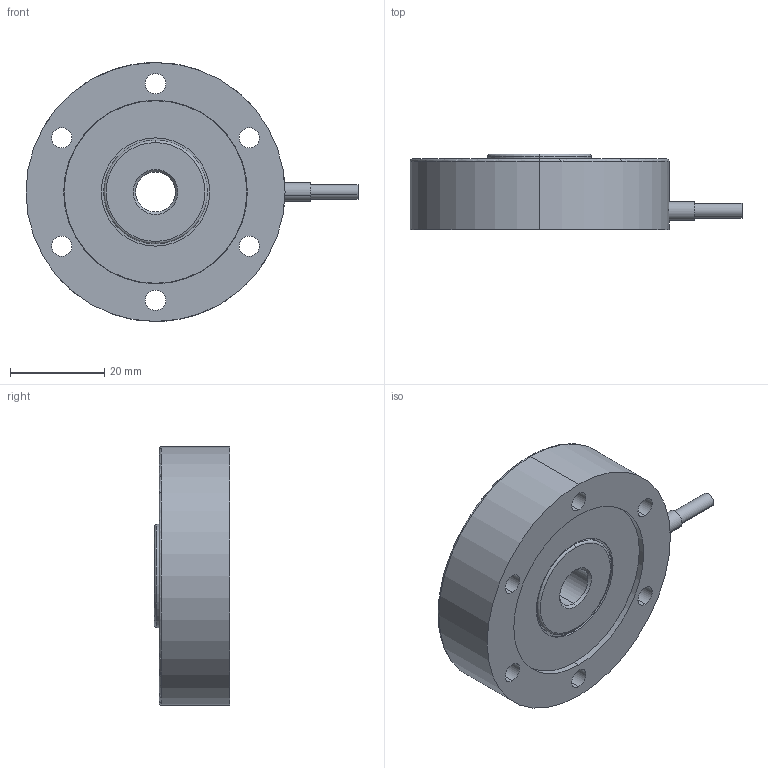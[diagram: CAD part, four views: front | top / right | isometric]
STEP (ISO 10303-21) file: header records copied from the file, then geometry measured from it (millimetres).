
FILE_DESCRIPTION (( 'STEP AP203' ), '1' );
FILE_NAME ('B-2019-0025-00445_M10_Kundenzeichnung.STEP', '2020-03-23T08:18:37', ( '' ), ( '' ), 'SwSTEP 2.0', 'SolidWorks 2018', '' );
FILE_SCHEMA (( 'CONFIG_CONTROL_DESIGN' ));
Length unit declared in the file: millimetre
Products named in the file (4): E-2019-0025-00443; B-2019-0025-00445_M10_Kundenzeichnung; E-2019-0025-00441_M10 Kundenzeichnung; NT-2018-00006_3,1m konfektioniert
Assembly tree (3 placements, depth 2):
  B-2019-0025-00445_M10_Kundenzeichnung
    E-2019-0025-00441_M10 Kundenzeichnung
    E-2019-0025-00443
    NT-2018-00006_3,1m konfektioniert
Bounding box: 70.5 x 16 x 55 mm (x, y, z)
Volume: 31219.4 mm3; surface area: 11250.6 mm2
Topology: 3 solids, 3 shells, 76 faces, 176 edges, 110 vertices
Faces by surface type: cylinder 47, plane 18, torus 6, cone 5
Entity records: 2742 total; most frequent: CARTESIAN_POINT 476, DIRECTION 448, ORIENTED_EDGE 352, AXIS2_PLACEMENT_3D 198, EDGE_CURVE 176, CIRCLE 116, VERTEX_POINT 110, EDGE_LOOP 98
